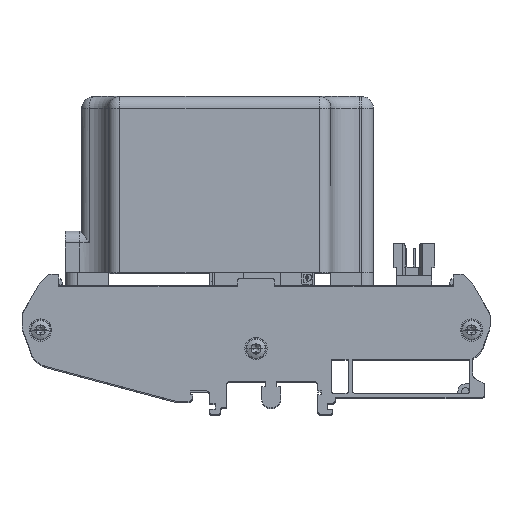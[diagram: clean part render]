
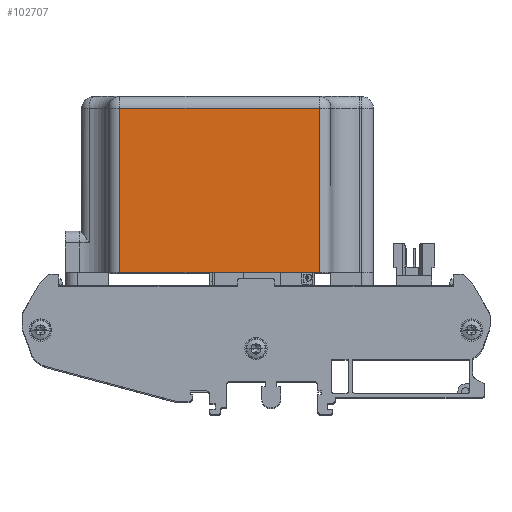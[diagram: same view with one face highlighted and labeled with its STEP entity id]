
A CAD part, top view. The second image highlights one B-rep face of the part: STEP entity #102707.
In plain terms, the highlighted planar face has unit normal (0, 0, 1).
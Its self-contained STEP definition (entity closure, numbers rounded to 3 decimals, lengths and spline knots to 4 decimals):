
#45116=DIRECTION('',(0.,1.,0.));
#45117=VECTOR('',#45116,1.736);
#45118=CARTESIAN_POINT('',(3.0789,0.9101,
7.5799));
#45119=LINE('',#45118,#45117);
#45300=DIRECTION('',(0.,-1.,0.));
#45301=VECTOR('',#45300,1.736);
#45302=CARTESIAN_POINT('',(0.9789,2.6461,
7.5799));
#45303=LINE('',#45302,#45301);
#45330=DIRECTION('',(-1.,0.,0.));
#45331=VECTOR('',#45330,2.1);
#45332=CARTESIAN_POINT('',(3.0789,2.6461,7.5799));
#45333=LINE('',#45332,#45331);
#45384=DIRECTION('',(1.,0.,0.));
#45385=VECTOR('',#45384,2.1);
#45386=CARTESIAN_POINT('',(0.9789,0.9101,
7.5799));
#45387=LINE('',#45386,#45385);
#98468=CARTESIAN_POINT('',(3.0789,2.6461,7.5799));
#98469=CARTESIAN_POINT('',(0.9789,2.6461,
7.5799));
#98470=VERTEX_POINT('',#98468);
#98471=VERTEX_POINT('',#98469);
#98504=CARTESIAN_POINT('',(0.9789,0.9101,
7.5799));
#98505=CARTESIAN_POINT('',(3.0789,0.9101,
7.5799));
#98506=VERTEX_POINT('',#98504);
#98507=VERTEX_POINT('',#98505);
#102696=CARTESIAN_POINT('',(2.0289,2.7711,
7.5799));
#102697=DIRECTION('',(0.,0.,1.));
#102698=DIRECTION('',(1.,0.,0.));
#102699=AXIS2_PLACEMENT_3D('',#102696,#102697,#102698);
#102700=PLANE('',#102699);
#102701=ORIENTED_EDGE('',*,*,#102526,.F.);
#102702=ORIENTED_EDGE('',*,*,#102637,.F.);
#102703=ORIENTED_EDGE('',*,*,#102687,.F.);
#102704=ORIENTED_EDGE('',*,*,#102505,.F.);
#102705=EDGE_LOOP('',(#102701,#102702,#102703,#102704));
#102706=FACE_OUTER_BOUND('',#102705,.F.);
#102707=ADVANCED_FACE('',(#102706),#102700,.T.);
#102505=EDGE_CURVE('',#98507,#98470,#45119,.T.);
#102526=EDGE_CURVE('',#98506,#98507,#45387,.T.);
#102637=EDGE_CURVE('',#98471,#98506,#45303,.T.);
#102687=EDGE_CURVE('',#98470,#98471,#45333,.T.);
